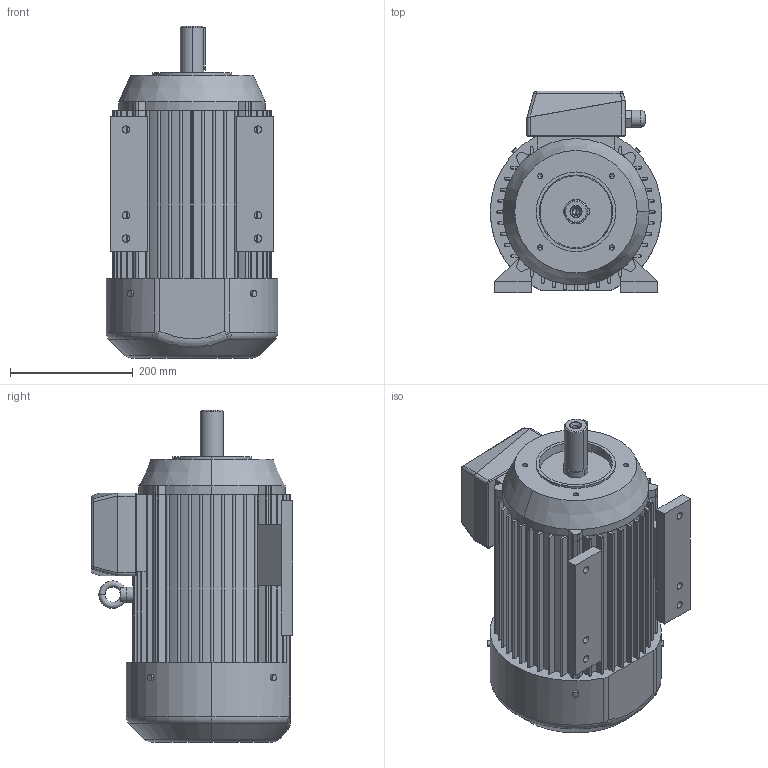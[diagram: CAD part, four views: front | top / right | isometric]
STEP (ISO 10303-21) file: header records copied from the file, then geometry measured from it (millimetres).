
FILE_DESCRIPTION (( 'STEP AP203' ), '1' );
FILE_NAME ('3SIEL132S;M-B14-C2.STEP', '2015-01-09T07:19:16', ( 'Indukta' ), ( 'Celma Indukta S.A.' ), 'SwSTEP 2.0', 'SolidWorks 2003064', '' );
FILE_SCHEMA (( 'CONFIG_CONTROL_DESIGN' ));
Length unit declared in the file: millimetre
Products named in the file (1): 3SIEL132S;M-B14-C2
Bounding box: 280 x 329 x 542 mm (x, y, z)
Volume: 25163895.7 mm3; surface area: 1038804.8 mm2
Topology: 16 solids, 16 shells, 431 faces, 1115 edges, 708 vertices
Faces by surface type: cylinder 192, plane 190, cone 24, torus 16, bspline 5, sphere 4
Entity records: 16861 total; most frequent: CARTESIAN_POINT 6088, DIRECTION 2324, ORIENTED_EDGE 2198, EDGE_CURVE 1099, AXIS2_PLACEMENT_3D 843, VERTEX_POINT 708, LINE 638, VECTOR 638
